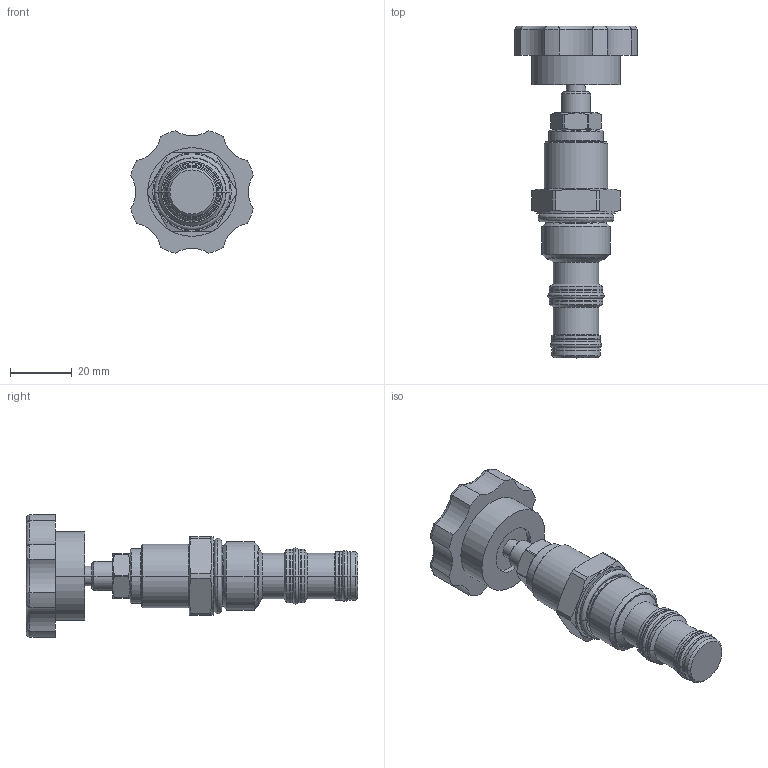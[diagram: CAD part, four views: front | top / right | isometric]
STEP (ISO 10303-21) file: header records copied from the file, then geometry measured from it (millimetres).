
FILE_DESCRIPTION((''),'2;1');
FILE_NAME('5413800_SW0002','2009-05-22T',('jcs'),(''),'PRO/ENGINEER BY PARAMETRIC TECHNOLOGY CORPORATION, 2008510','PRO/ENGINEER BY PARAMETRIC TECHNOLOGY CORPORATION, 2008510','');
FILE_SCHEMA(('CONFIG_CONTROL_DESIGN'));
Length unit declared in the file: inch
Products named in the file (1): 5413800_SW0002
Bounding box: 39.67 x 107.49 x 39.67 mm (x, y, z)
Volume: 40597.1 mm3; surface area: 13246 mm2
Topology: 5 solids, 5 shells, 237 faces, 513 edges, 297 vertices
Faces by surface type: cylinder 82, torus 48, cone 48, plane 35, revolution 24
Entity records: 7311 total; most frequent: CARTESIAN_POINT 2051, DIRECTION 1179, ORIENTED_EDGE 1026, AXIS2_PLACEMENT_3D 513, EDGE_CURVE 513, CIRCLE 300, VERTEX_POINT 297, EDGE_LOOP 256
